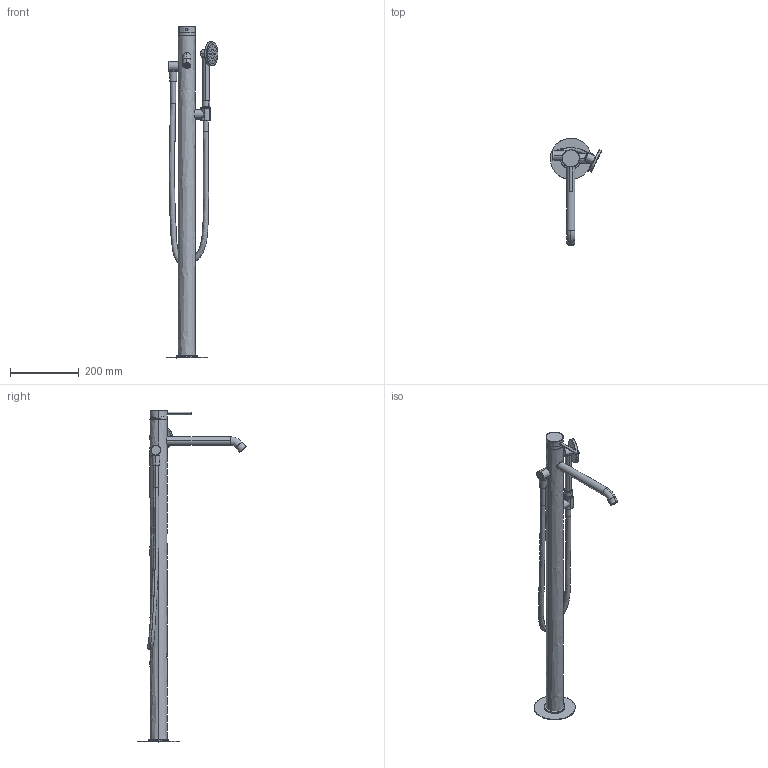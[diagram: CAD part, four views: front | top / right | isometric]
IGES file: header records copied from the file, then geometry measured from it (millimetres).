
Start section: SolidWorks IGES file using analytic representation for surfaces
Global section: file name: C:\Users\cadcam2\Desktop\Nuova cartella - Copia\Nuova cartella\TH153.IGS; native system: SolidWorks 2021; preprocessor: SolidWorks 2021; author: cadcam2; date: 211229.182409; units: millimetre
Bounding box: 150.19 x 314.65 x 967.2 mm (x, y, z)
Surface area: 400485.8 mm2 (no closed solid volume)
Topology: 0 solids, 0 shells, 255 faces, 5197 edges, 5191 vertices
Faces by surface type: revolution 137, bspline 118
